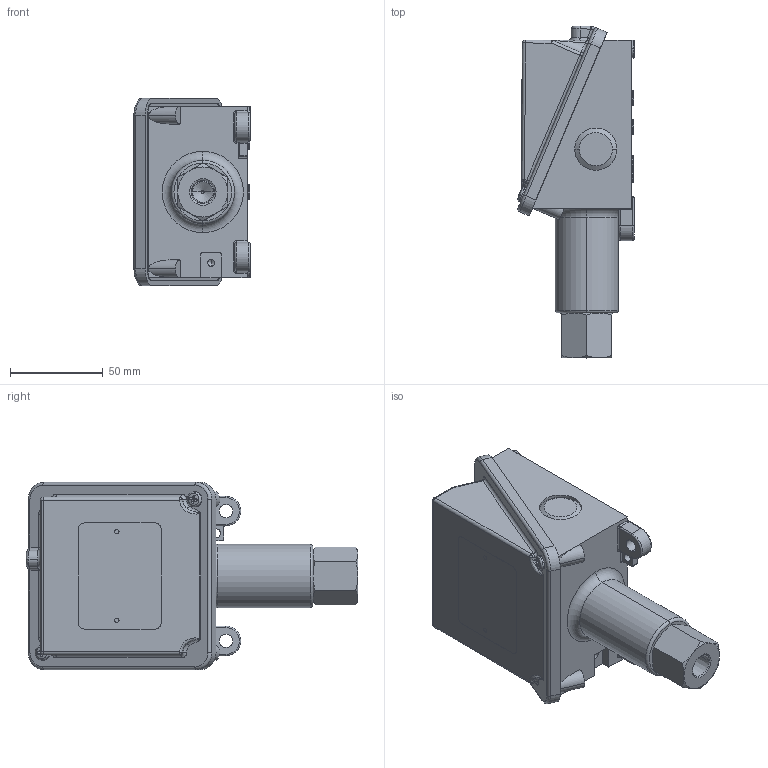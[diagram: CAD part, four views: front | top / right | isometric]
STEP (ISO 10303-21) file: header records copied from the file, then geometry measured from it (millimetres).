
FILE_DESCRIPTION (( 'STEP AP214' ), '1' );
FILE_NAME ('H100-610,612,616,15884_V1.STEP', '2025-02-21T18:19:29', ( '' ), ( '' ), 'SwSTEP 2.0', 'SolidWorks 2023', '' );
FILE_SCHEMA (( 'AUTOMOTIVE_DESIGN' ));
Length unit declared in the file: inch
Products named in the file (1): H100-610,612,616,15884_V1
Bounding box: 62.62 x 178.67 x 100.84 mm (x, y, z)
Volume: 199495.2 mm3; surface area: 116170.8 mm2
Topology: 7 solids, 7 shells, 840 faces, 1977 edges, 1161 vertices
Faces by surface type: cylinder 350, plane 243, torus 111, cone 64, bspline 36, sphere 36
Entity records: 25321 total; most frequent: CARTESIAN_POINT 5989, DIRECTION 4308, ORIENTED_EDGE 3866, EDGE_CURVE 1933, AXIS2_PLACEMENT_3D 1718, VERTEX_POINT 1161, EDGE_LOOP 918, CIRCLE 913
